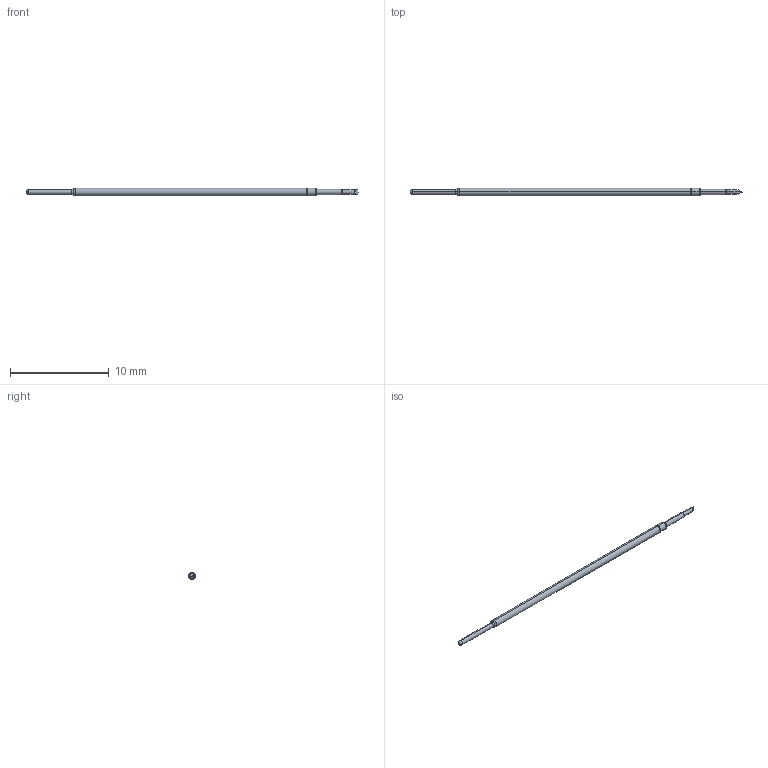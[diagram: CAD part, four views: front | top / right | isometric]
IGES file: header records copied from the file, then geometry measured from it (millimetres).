
Start section: SolidWorks IGES file using analytic representation for surfaces
Global section: file name: C:\Documents and Settings\mrumschlag\Desktop\changes\new\test\I15 RECD.IGS; native system: SolidWorks 2011; preprocessor: SolidWorks 2011; author: mrumschlag; date: 110630.142738; units: inch
Bounding box: 33.69 x 0.76 x 0.76 mm (x, y, z)
Surface area: 73.4 mm2 (no closed solid volume)
Topology: 0 solids, 0 shells, 35 faces, 210 edges, 208 vertices
Faces by surface type: revolution 22, bspline 13
